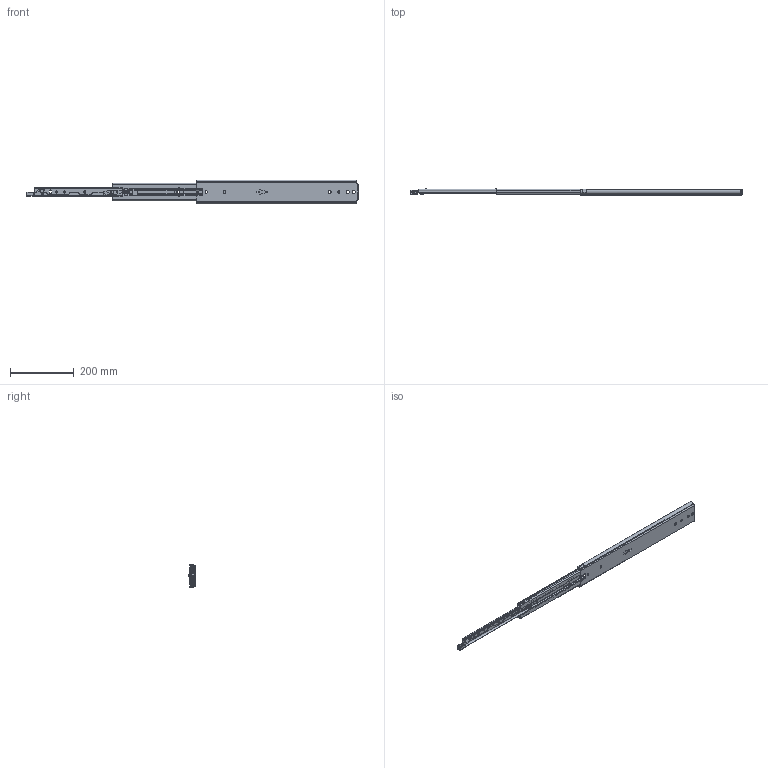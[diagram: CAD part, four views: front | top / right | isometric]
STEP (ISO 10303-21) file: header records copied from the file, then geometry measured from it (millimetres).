
FILE_DESCRIPTION((''),'2;1');
FILE_NAME('DG-76-3S-20ZUO_ASM','2023-05-09T',('jishu015'),(''),'PRO/ENGINEER BY PARAMETRIC TECHNOLOGY CORPORATION, 2010280','PRO/ENGINEER BY PARAMETRIC TECHNOLOGY CORPORATION, 2010280','');
FILE_SCHEMA(('CONFIG_CONTROL_DESIGN'));
Products named in the file (29): KP-76-04WAIKE-1816__; 1076-WAIKEZIDANJIAO16__; WAIK16___ASM; 1076XIAOZHUTIAO-22516__; 16__; 1076XIAOZHUTIAO-17516___ASM; KP-76-04ZHONGGUI1816__; 76CHANGGUIZHONGGUIJIAO16__; 3X6WODIN16__; ZHONGGUIBAIKOU16__; PJ-76-30_; PJ-76-03_; 76-XIAOZHUJIA-11_; GANGZHU-XIAO_; ZHUJIA-XIAO__ASM; ZHONGGUI6___ASM; KP-76-04NEIGUI1816__; PJ-76-31_; DAOGPIAN16__; 1053-3SBANJ01_; JIAO-11_; 76XINSUOKOU_; PJ-338_; PJ-356_; PJ-357_; PJ-336_; M4X4_; NEIGUI16___ASM; DG-76-3S-20ZUO_ASM
Assembly tree (52 placements, depth 4):
  DG-76-3S-20ZUO_ASM
    WAIK16___ASM
      KP-76-04WAIKE-1816__
      1076-WAIKEZIDANJIAO16__  x2
    1076XIAOZHUTIAO-17516___ASM  x2
      1076XIAOZHUTIAO-22516__
      16__
    ZHONGGUI6___ASM
      KP-76-04ZHONGGUI1816__
      76CHANGGUIZHONGGUIJIAO16__
      3X6WODIN16__
      ZHONGGUIBAIKOU16__
      PJ-76-30_
      PJ-76-03_
      ZHUJIA-XIAO__ASM
        76-XIAOZHUJIA-11_
        GANGZHU-XIAO_  x16
    NEIGUI16___ASM
      KP-76-04NEIGUI1816__
      PJ-76-31_
      DAOGPIAN16__
      1053-3SBANJ01_
      JIAO-11_
      76XINSUOKOU_
      PJ-338_
      PJ-356_
      PJ-357_
      PJ-336_
      M4X4_
Bounding box: 1041.92 x 20.7 x 75.3 mm (x, y, z)
Volume: 331497.5 mm3; surface area: 319192.5 mm2
Topology: 56 solids, 56 shells, 1817 faces, 5407 edges, 3481 vertices
Faces by surface type: plane 813, cylinder 686, bspline 116, torus 80, sphere 71, cone 28, extrusion 23
Entity records: 65541 total; most frequent: CARTESIAN_POINT 21202, ORIENTED_EDGE 9794, DIRECTION 8588, EDGE_CURVE 4897, VERTEX_POINT 3213, AXIS2_PLACEMENT_3D 3022, VECTOR 2544, LINE 2521
